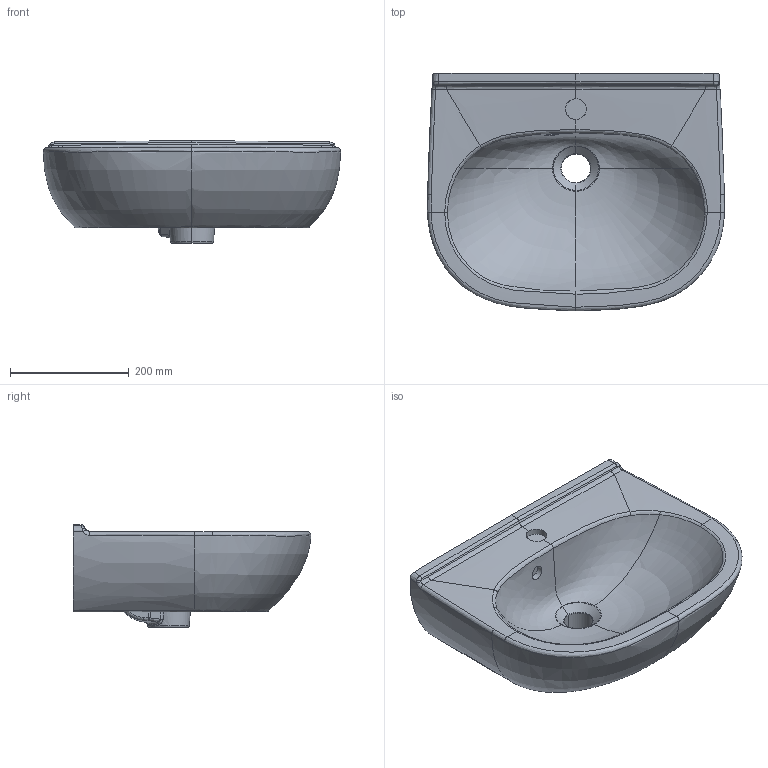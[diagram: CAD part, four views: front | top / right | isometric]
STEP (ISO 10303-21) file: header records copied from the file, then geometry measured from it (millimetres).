
FILE_DESCRIPTION(/* description */ (''),/* implementation_level */ '2;1');
FILE_NAME(/* name */ '536050_Onovo_HWB.stp',/* time_stamp */ '2019-03-13T14:27:48+01:00',/* author */ (''),/* organization */ (''),/* preprocessor_version */ 'ST-DEVELOPER v16',/* originating_system */ 'SIEMENS PLM Software NX 10.0',/* authorisation */ '');
FILE_SCHEMA (('AUTOMOTIVE_DESIGN { 1 0 10303 214 3 1 1 1 }'));
Length unit declared in the file: millimetre
Products named in the file (1): Sier18D045B4ajnr
Bounding box: 500.39 x 400.24 x 173.03 mm (x, y, z)
Volume: 15109548.8 mm3; surface area: 595075.1 mm2
Topology: 1 solids, 1 shells, 95 faces, 230 edges, 136 vertices
Faces by surface type: bspline 81, plane 10, cylinder 2, extrusion 2
Full cylindrical faces by diameter (mm): 24 x1, 35 x1
Entity records: 14474 total; most frequent: CARTESIAN_POINT 12968, ORIENTED_EDGE 452, EDGE_CURVE 226, B_SPLINE_CURVE_WITH_KNOTS 149, VERTEX_POINT 135, EDGE_LOOP 99, ADVANCED_FACE 95, FACE_OUTER_BOUND 91
